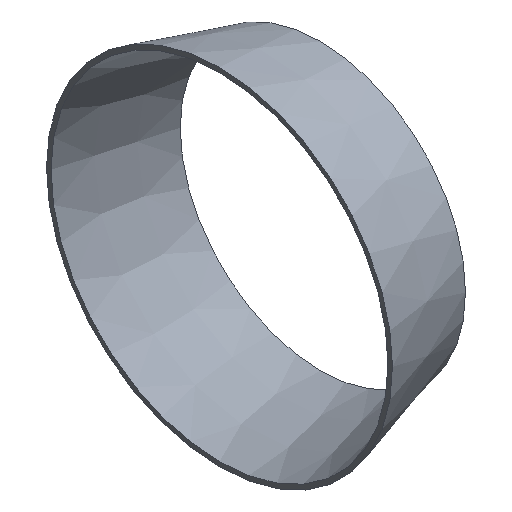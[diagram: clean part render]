
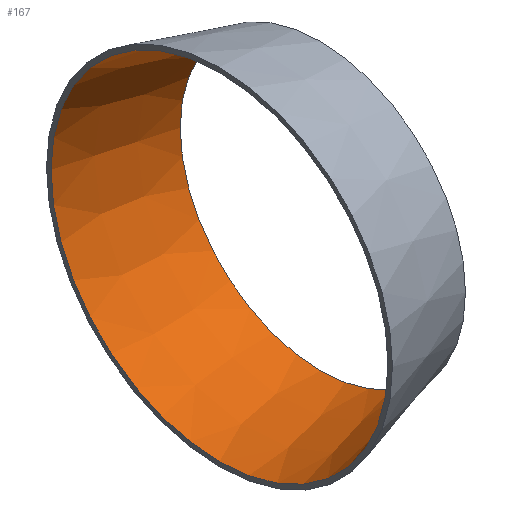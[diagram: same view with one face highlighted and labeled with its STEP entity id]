
A CAD part, isometric view. The second image highlights one B-rep face of the part: STEP entity #167.
In plain terms, the highlighted conical face has half-angle 15.524 degrees and reference radius 75 mm.
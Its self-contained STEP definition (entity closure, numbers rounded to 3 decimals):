
#43 = PLANE('',#44);
#44 = AXIS2_PLACEMENT_3D('',#45,#46,#47);
#45 = CARTESIAN_POINT('',(0.,0.,0.));
#46 = DIRECTION('',(1.,0.,0.));
#47 = DIRECTION('',(0.,1.,0.));
#90 = PLANE('',#91);
#91 = AXIS2_PLACEMENT_3D('',#92,#93,#94);
#92 = CARTESIAN_POINT('',(45.,0.,0.));
#93 = DIRECTION('',(1.,0.,0.));
#94 = DIRECTION('',(0.,1.,0.));
#109 = EDGE_CURVE('',#110,#110,#112,.T.);
#110 = VERTEX_POINT('',#111);
#111 = CARTESIAN_POINT('',(0.,75.,0.));
#112 = SURFACE_CURVE('',#113,(#118,#125),.PCURVE_S1.);
#113 = CIRCLE('',#114,75.);
#114 = AXIS2_PLACEMENT_3D('',#115,#116,#117);
#115 = CARTESIAN_POINT('',(0.,0.,0.));
#116 = DIRECTION('',(1.,0.,0.));
#117 = DIRECTION('',(0.,1.,0.));
#118 = PCURVE('',#43,#119);
#119 = DEFINITIONAL_REPRESENTATION('',(#120),#124);
#120 = CIRCLE('',#121,75.);
#121 = AXIS2_PLACEMENT_2D('',#122,#123);
#122 = CARTESIAN_POINT('',(0.,0.));
#123 = DIRECTION('',(1.,0.));
#124 = ( GEOMETRIC_REPRESENTATION_CONTEXT(2) 
PARAMETRIC_REPRESENTATION_CONTEXT() REPRESENTATION_CONTEXT('2D SPACE',''
  ) );
#125 = PCURVE('',#126,#131);
#126 = CONICAL_SURFACE('',#127,75.,0.271);
#127 = AXIS2_PLACEMENT_3D('',#128,#129,#130);
#128 = CARTESIAN_POINT('',(0.,0.,0.));
#129 = DIRECTION('',(-1.,-0.,-0.));
#130 = DIRECTION('',(0.,1.,0.));
#131 = DEFINITIONAL_REPRESENTATION('',(#132),#136);
#132 = LINE('',#133,#134);
#133 = CARTESIAN_POINT('',(-0.,-0.));
#134 = VECTOR('',#135,1.);
#135 = DIRECTION('',(-1.,-0.));
#136 = ( GEOMETRIC_REPRESENTATION_CONTEXT(2) 
PARAMETRIC_REPRESENTATION_CONTEXT() REPRESENTATION_CONTEXT('2D SPACE',''
  ) );
#144 = EDGE_CURVE('',#145,#145,#147,.T.);
#145 = VERTEX_POINT('',#146);
#146 = CARTESIAN_POINT('',(45.,62.5,0.));
#147 = SURFACE_CURVE('',#148,(#153,#160),.PCURVE_S1.);
#148 = CIRCLE('',#149,62.5);
#149 = AXIS2_PLACEMENT_3D('',#150,#151,#152);
#150 = CARTESIAN_POINT('',(45.,0.,0.));
#151 = DIRECTION('',(1.,0.,0.));
#152 = DIRECTION('',(0.,1.,0.));
#153 = PCURVE('',#90,#154);
#154 = DEFINITIONAL_REPRESENTATION('',(#155),#159);
#155 = CIRCLE('',#156,62.5);
#156 = AXIS2_PLACEMENT_2D('',#157,#158);
#157 = CARTESIAN_POINT('',(0.,0.));
#158 = DIRECTION('',(1.,0.));
#159 = ( GEOMETRIC_REPRESENTATION_CONTEXT(2) 
PARAMETRIC_REPRESENTATION_CONTEXT() REPRESENTATION_CONTEXT('2D SPACE',''
  ) );
#160 = PCURVE('',#126,#161);
#161 = DEFINITIONAL_REPRESENTATION('',(#162),#166);
#162 = LINE('',#163,#164);
#163 = CARTESIAN_POINT('',(-0.,-45.));
#164 = VECTOR('',#165,1.);
#165 = DIRECTION('',(-1.,-0.));
#166 = ( GEOMETRIC_REPRESENTATION_CONTEXT(2) 
PARAMETRIC_REPRESENTATION_CONTEXT() REPRESENTATION_CONTEXT('2D SPACE',''
  ) );
#167 = ADVANCED_FACE('',(#168),#126,.F.);
#168 = FACE_BOUND('',#169,.F.);
#169 = EDGE_LOOP('',(#170,#188,#189,#190));
#170 = ORIENTED_EDGE('',*,*,#171,.F.);
#171 = EDGE_CURVE('',#110,#145,#172,.T.);
#172 = SEAM_CURVE('',#173,(#176,#182),.PCURVE_S1.);
#173 = B_SPLINE_CURVE_WITH_KNOTS('',1,(#174,#175),.UNSPECIFIED.,.F.,.F.,
  (2,2),(0.,1.),.PIECEWISE_BEZIER_KNOTS.);
#174 = CARTESIAN_POINT('',(0.,75.,0.));
#175 = CARTESIAN_POINT('',(45.,62.5,0.));
#176 = PCURVE('',#126,#177);
#177 = DEFINITIONAL_REPRESENTATION('',(#178),#181);
#178 = B_SPLINE_CURVE_WITH_KNOTS('',1,(#179,#180),.UNSPECIFIED.,.F.,.F.,
  (2,2),(0.,1.),.PIECEWISE_BEZIER_KNOTS.);
#179 = CARTESIAN_POINT('',(0.,0.));
#180 = CARTESIAN_POINT('',(0.,-45.));
#181 = ( GEOMETRIC_REPRESENTATION_CONTEXT(2) 
PARAMETRIC_REPRESENTATION_CONTEXT() REPRESENTATION_CONTEXT('2D SPACE',''
  ) );
#182 = PCURVE('',#126,#183);
#183 = DEFINITIONAL_REPRESENTATION('',(#184),#187);
#184 = B_SPLINE_CURVE_WITH_KNOTS('',1,(#185,#186),.UNSPECIFIED.,.F.,.F.,
  (2,2),(0.,1.),.PIECEWISE_BEZIER_KNOTS.);
#185 = CARTESIAN_POINT('',(-6.283,0.));
#186 = CARTESIAN_POINT('',(-6.283,-45.));
#187 = ( GEOMETRIC_REPRESENTATION_CONTEXT(2) 
PARAMETRIC_REPRESENTATION_CONTEXT() REPRESENTATION_CONTEXT('2D SPACE',''
  ) );
#188 = ORIENTED_EDGE('',*,*,#109,.T.);
#189 = ORIENTED_EDGE('',*,*,#171,.T.);
#190 = ORIENTED_EDGE('',*,*,#144,.F.);
